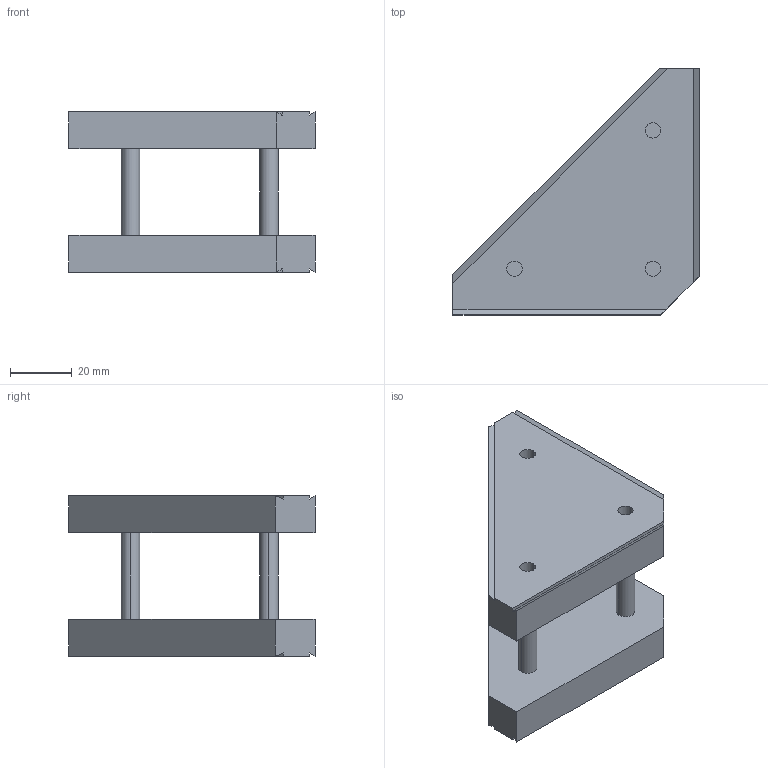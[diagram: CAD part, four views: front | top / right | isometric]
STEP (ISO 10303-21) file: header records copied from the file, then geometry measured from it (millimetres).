
FILE_DESCRIPTION (( 'STEP AP203' ), '1' );
FILE_NAME ('X-Z Verbindung dL80.STEP', '2002-07-08T12:58:09', ( '' ), ( '' ), 'SwSTEP 2.0', 'SolidWorks 2002127', '' );
FILE_SCHEMA (( 'CONFIG_CONTROL_DESIGN' ));
Length unit declared in the file: millimetre
Products named in the file (1): X-Z Verbindung dL80
Bounding box: 80 x 80 x 52.2 mm (x, y, z)
Volume: 99052.7 mm3; surface area: 25504.4 mm2
Topology: 1 solids, 1 shells, 43 faces, 108 edges, 72 vertices
Faces by surface type: plane 31, cylinder 12
Entity records: 1371 total; most frequent: CARTESIAN_POINT 224, DIRECTION 220, ORIENTED_EDGE 216, EDGE_CURVE 108, LINE 84, VECTOR 84, VERTEX_POINT 72, AXIS2_PLACEMENT_3D 68
